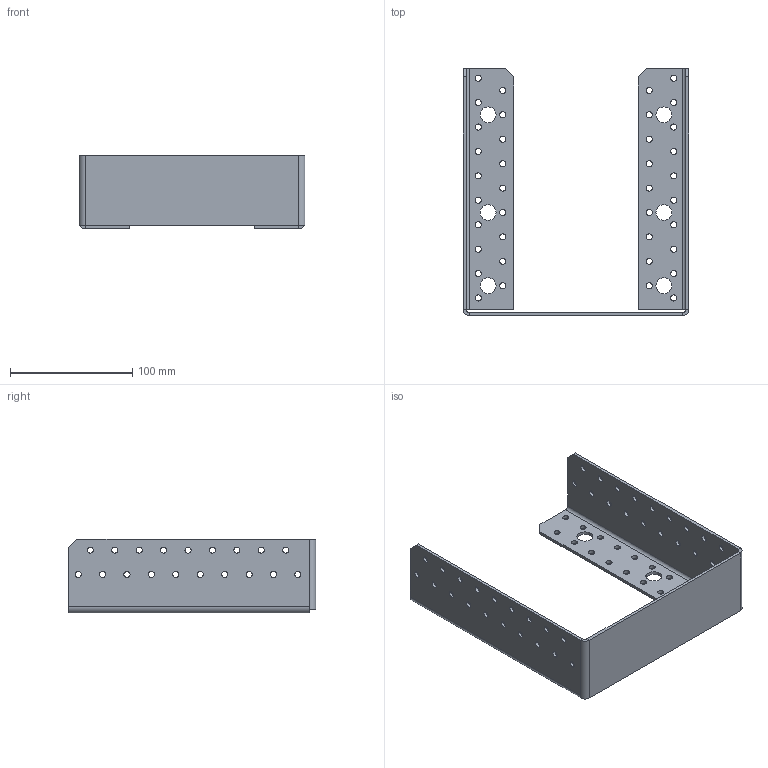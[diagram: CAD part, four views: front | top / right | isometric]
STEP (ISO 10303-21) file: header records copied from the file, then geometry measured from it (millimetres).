
FILE_DESCRIPTION (( 'STEP AP203' ), '1' );
FILE_NAME ('40521IKO.STEP', '2021-04-16T09:39:51', ( '' ), ( '' ), 'SwSTEP 2.0', 'SolidWorks 2013', '' );
FILE_SCHEMA (( 'CONFIG_CONTROL_DESIGN' ));
Length unit declared in the file: millimetre
Products named in the file (1): 40521IKO
Bounding box: 185 x 202.5 x 60.5 mm (x, y, z)
Volume: 117783.5 mm3; surface area: 101382.9 mm2
Topology: 1 solids, 1 shells, 208 faces, 588 edges, 382 vertices
Faces by surface type: cylinder 172, plane 36
Entity records: 7303 total; most frequent: DIRECTION 1352, CARTESIAN_POINT 1179, ORIENTED_EDGE 1176, EDGE_CURVE 588, AXIS2_PLACEMENT_3D 555, VERTEX_POINT 382, EDGE_LOOP 372, CIRCLE 346
